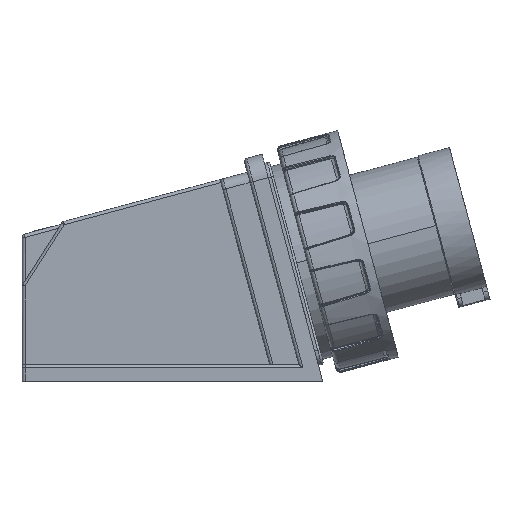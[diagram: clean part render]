
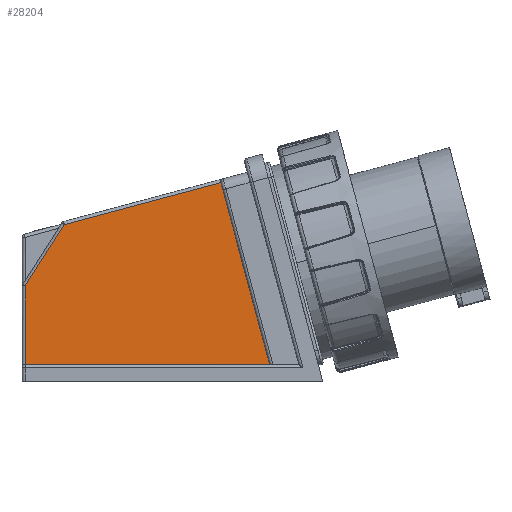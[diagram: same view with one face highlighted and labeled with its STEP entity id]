
A CAD part, left-side view. The second image highlights one B-rep face of the part: STEP entity #28204.
In plain terms, the highlighted planar face has unit normal (-1, 0, 0).
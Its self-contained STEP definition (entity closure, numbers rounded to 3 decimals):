
#26658 = VERTEX_POINT('',#26659);
#26659 = CARTESIAN_POINT('',(-42.5,70.5,45.716));
#26675 = VERTEX_POINT('',#26676);
#26676 = CARTESIAN_POINT('',(-42.5,70.5,8.));
#26683 = EDGE_CURVE('',#26658,#26675,#26684,.T.);
#26684 = LINE('',#26685,#26686);
#26685 = CARTESIAN_POINT('',(-42.5,70.5,26.858));
#26686 = VECTOR('',#26687,1.);
#26687 = DIRECTION('',(0.,0.,-1.));
#28178 = VERTEX_POINT('',#28179);
#28179 = CARTESIAN_POINT('',(-42.5,-23.22,
    95.116));
#28185 = EDGE_CURVE('',#28186,#28178,#28188,.T.);
#28186 = VERTEX_POINT('',#28187);
#28187 = CARTESIAN_POINT('',(-42.5,-46.563,8.));
#28188 = LINE('',#28189,#28190);
#28189 = CARTESIAN_POINT('',(-42.5,-34.891,51.558));
#28190 = VECTOR('',#28191,1.);
#28191 = DIRECTION('',(0.,0.259,0.966));
#28204 = ADVANCED_FACE('',(#28205),#28229,.F.);
#28205 = FACE_BOUND('',#28206,.T.);
#28206 = EDGE_LOOP('',(#28207,#28208,#28216,#28222,#28223));
#28207 = ORIENTED_EDGE('',*,*,#28185,.T.);
#28208 = ORIENTED_EDGE('',*,*,#28209,.T.);
#28209 = EDGE_CURVE('',#28178,#28210,#28212,.T.);
#28210 = VERTEX_POINT('',#28211);
#28211 = CARTESIAN_POINT('',(-42.5,51.732,75.033));
#28212 = LINE('',#28213,#28214);
#28213 = CARTESIAN_POINT('',(-42.5,-263.907,159.608));
#28214 = VECTOR('',#28215,1.);
#28215 = DIRECTION('',(0.,0.966,-0.259));
#28216 = ORIENTED_EDGE('',*,*,#28217,.T.);
#28217 = EDGE_CURVE('',#28210,#26658,#28218,.T.);
#28218 = LINE('',#28219,#28220);
#28219 = CARTESIAN_POINT('',(-42.5,-73.163,270.124));
#28220 = VECTOR('',#28221,1.);
#28221 = DIRECTION('',(0.,0.539,-0.842));
#28222 = ORIENTED_EDGE('',*,*,#26683,.T.);
#28223 = ORIENTED_EDGE('',*,*,#28224,.F.);
#28224 = EDGE_CURVE('',#28186,#26675,#28225,.T.);
#28225 = LINE('',#28226,#28227);
#28226 = CARTESIAN_POINT('',(-42.5,11.969,8.));
#28227 = VECTOR('',#28228,1.);
#28228 = DIRECTION('',(0.,1.,0.));
#28229 = PLANE('',#28230);
#28230 = AXIS2_PLACEMENT_3D('',#28231,#28232,#28233);
#28231 = CARTESIAN_POINT('',(-42.5,0.,0.));
#28232 = DIRECTION('',(1.,0.,0.));
#28233 = DIRECTION('',(-0.,1.,0.));
